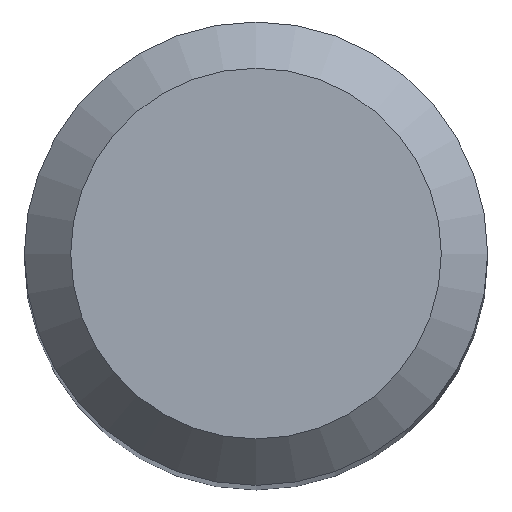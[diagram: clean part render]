
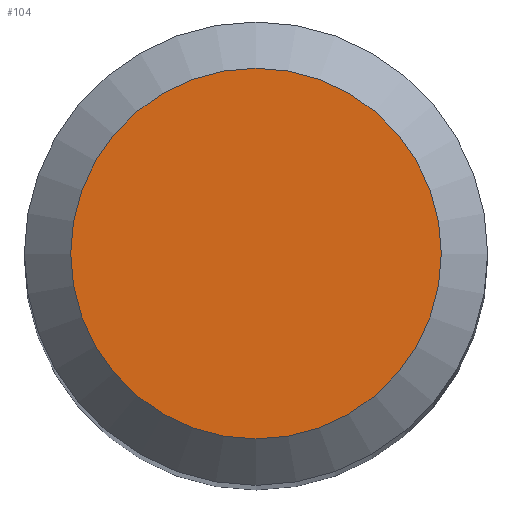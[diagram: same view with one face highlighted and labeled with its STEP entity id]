
A CAD part, top view. The second image highlights one B-rep face of the part: STEP entity #104.
In plain terms, the highlighted planar face has unit normal (0, 0, 1).
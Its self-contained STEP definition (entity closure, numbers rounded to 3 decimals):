
#88=CARTESIAN_POINT('',(3.2,0.0,70.0));
#89=DIRECTION('',(0.0,0.0,1.0));
#90=DIRECTION('',(1.0,0.0,0.0));
#91=AXIS2_PLACEMENT_3D('',#88,#89,#90);
#92=PLANE('',#91);
#93=CARTESIAN_POINT('',(-3.2,0.0,70.));
#94=VERTEX_POINT('',#93);
#95=CARTESIAN_POINT('',(0.0,0.0,70.));
#96=DIRECTION('',(0.0,0.0,-1.0));
#97=DIRECTION('',(-1.0,0.0,0.0));
#98=AXIS2_PLACEMENT_3D('',#95,#96,#97);
#99=CIRCLE('',#98,3.2);
#100=EDGE_CURVE('',#94,#94,#99,.T.);
#101=ORIENTED_EDGE('',*,*,#100,.F.);
#102=EDGE_LOOP('',(#101));
#103=FACE_OUTER_BOUND('',#102,.T.);
#104=ADVANCED_FACE('',(#103),#92,.T.);
